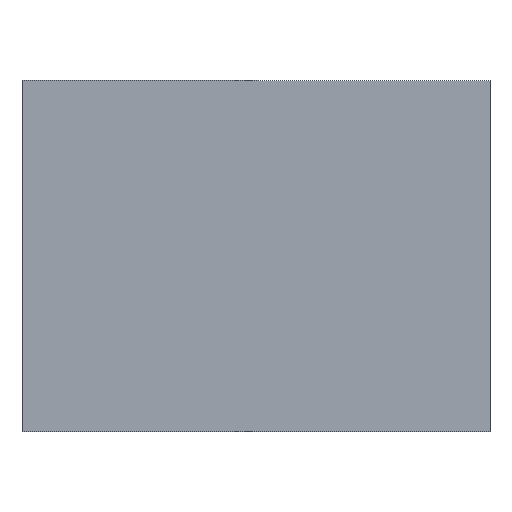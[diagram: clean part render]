
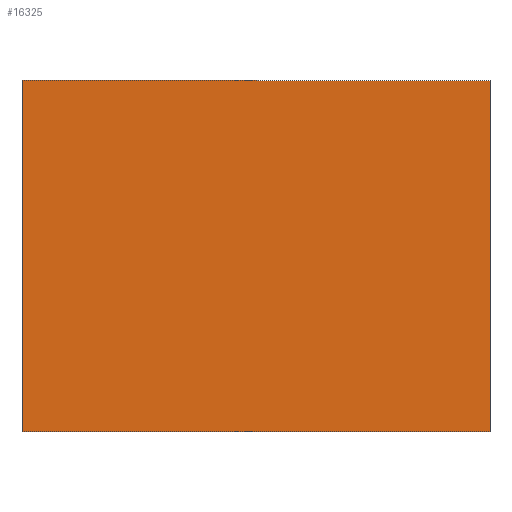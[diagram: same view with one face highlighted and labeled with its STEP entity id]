
A CAD part, front view. The second image highlights one B-rep face of the part: STEP entity #16325.
In plain terms, the highlighted planar face has unit normal (0, -1, 0).
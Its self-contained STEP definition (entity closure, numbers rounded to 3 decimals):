
#4397 = VECTOR ( 'NONE', #6193, 1000. ) ;
#5495 = AXIS2_PLACEMENT_3D ( 'NONE', #25336, #17297, #45692 ) ;
#6193 = DIRECTION ( 'NONE',  ( -1., 0., 0. ) ) ;
#9931 = CARTESIAN_POINT ( 'NONE',  ( -200., 0., -150. ) ) ;
#10690 = EDGE_CURVE ( 'NONE', #44112, #29952, #35383, .T. ) ;
#11157 = LINE ( 'NONE', #21195, #20781 ) ;
#14685 = CARTESIAN_POINT ( 'NONE',  ( 200., 0., -150. ) ) ;
#15235 = LINE ( 'NONE', #46702, #4397 ) ;
#16325 = ADVANCED_FACE ( 'NONE', ( #23729 ), #41647, .F. ) ;
#17215 = LINE ( 'NONE', #48863, #37569 ) ;
#17246 = DIRECTION ( 'NONE',  ( 1., 0., 0. ) ) ;
#17297 = DIRECTION ( 'NONE',  ( 0., 1., 0. ) ) ;
#19951 = EDGE_CURVE ( 'NONE', #35483, #44112, #15235, .T. ) ;
#20781 = VECTOR ( 'NONE', #17246, 1000. ) ;
#21195 = CARTESIAN_POINT ( 'NONE',  ( 200., 0., 150. ) ) ;
#22224 = EDGE_LOOP ( 'NONE', ( #47277, #47929, #51098, #34662 ) ) ;
#23729 = FACE_OUTER_BOUND ( 'NONE', #22224, .T. ) ;
#25300 = CARTESIAN_POINT ( 'NONE',  ( -200., 0., 150. ) ) ;
#25336 = CARTESIAN_POINT ( 'NONE',  ( 0., 0., 0. ) ) ;
#28764 = DIRECTION ( 'NONE',  ( 0., 0., -1. ) ) ;
#29396 = DIRECTION ( 'NONE',  ( 0., 0., 1. ) ) ;
#29616 = CARTESIAN_POINT ( 'NONE',  ( -200., 0., 150. ) ) ;
#29855 = EDGE_CURVE ( 'NONE', #39451, #35483, #17215, .T. ) ;
#29952 = VERTEX_POINT ( 'NONE', #29616 ) ;
#34662 = ORIENTED_EDGE ( 'NONE', *, *, #42424, .F. ) ;
#35383 = LINE ( 'NONE', #25300, #46155 ) ;
#35483 = VERTEX_POINT ( 'NONE', #14685 ) ;
#37569 = VECTOR ( 'NONE', #28764, 1000. ) ;
#39451 = VERTEX_POINT ( 'NONE', #52433 ) ;
#41647 = PLANE ( 'NONE',  #5495 ) ;
#42424 = EDGE_CURVE ( 'NONE', #29952, #39451, #11157, .T. ) ;
#44112 = VERTEX_POINT ( 'NONE', #9931 ) ;
#45692 = DIRECTION ( 'NONE',  ( 0., 0., 1. ) ) ;
#46155 = VECTOR ( 'NONE', #29396, 1000. ) ;
#46702 = CARTESIAN_POINT ( 'NONE',  ( 200., 0., -150. ) ) ;
#47277 = ORIENTED_EDGE ( 'NONE', *, *, #10690, .F. ) ;
#47929 = ORIENTED_EDGE ( 'NONE', *, *, #19951, .F. ) ;
#48863 = CARTESIAN_POINT ( 'NONE',  ( 200., 0., 150. ) ) ;
#51098 = ORIENTED_EDGE ( 'NONE', *, *, #29855, .F. ) ;
#52433 = CARTESIAN_POINT ( 'NONE',  ( 200., 0., 150. ) ) ;
